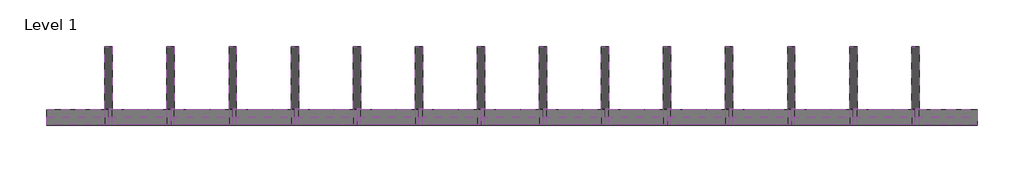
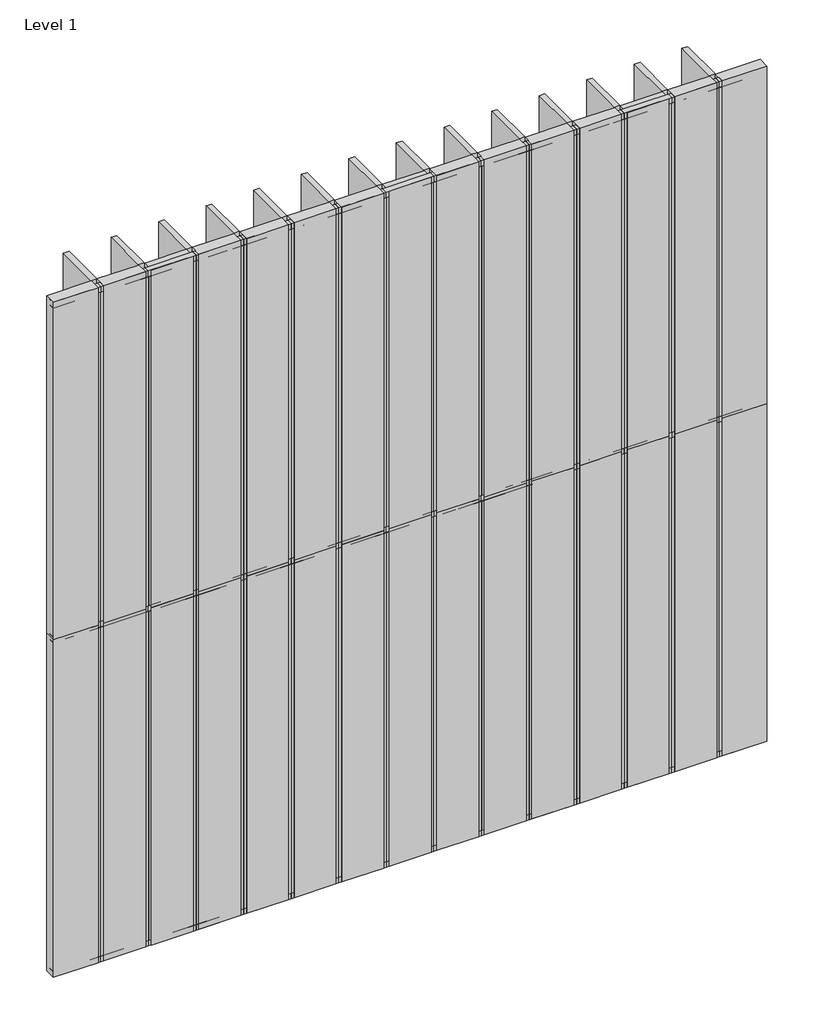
# One storey: 73 members, 60 plates.
"""IFC4 building model written with IfcOpenShell, lengths in millimetres."""

from ifc_helpers import new_model, si_unit, origin, place, context, project, spatial, transform, mapped, element, save
from components import rectangular_mullion_e1254653, rectangular_mullion_05cc9e47, rectangular_mullion_4a4034a1, rectangular_mullion_3c6e38bc, empty_system_panel_empty_6b42ee64, empty_system_panel_empty_c65c1b0f, empty_system_panel_empty_361e841d

model = new_model("IFC4")

# Units and contexts
model_context = context("Model", 3, world=origin())
ifc_project = project(units=[si_unit("LENGTHUNIT", "METRE", prefix="MILLI")], contexts=[model_context])

# Site, building, storey
site = spatial("IfcSite", under=ifc_project)
building = spatial("IfcBuilding", under=site)
storey = spatial("IfcBuildingStorey", under=building, Name="Level 1", Elevation=0.0)

# Members
placement = place(None, origin())
rectangular_mullion_shape = rectangular_mullion_e1254653(model_context)
element("IfcMember", 1, ObjectType="Rectangular Mullion : RSen_21_CWM_blade - cubic 400 - 0°_gen_duco projects", at=placement, inside=storey, context=model_context, shape_type="MappedRepresentation", body=[
    mapped(rectangular_mullion_shape, transform((5600.0, 3000.0, 0.0), x_axis=(-1.0, 0.0, 0.0), y_axis=(0.0, 1.0, 0.0), z_axis=(0.0, 0.0, -1.0))),
])
element("IfcMember", 2, ObjectType="Rectangular Mullion : RSen_21_CWM_blade - cubic 400 - 0°_gen_duco projects", at=placement, inside=storey, context=model_context, shape_type="MappedRepresentation", body=[
    mapped(rectangular_mullion_shape, transform((5200.0, 3000.0, 0.0), x_axis=(-1.0, 0.0, 0.0), y_axis=(0.0, 1.0, 0.0), z_axis=(0.0, 0.0, -1.0))),
])
element("IfcMember", 3, ObjectType="Rectangular Mullion : RSen_21_CWM_blade - cubic 400 - 0°_gen_duco projects", at=placement, inside=storey, context=model_context, shape_type="MappedRepresentation", body=[
    mapped(rectangular_mullion_shape, transform((4800.0, 3000.0, 0.0), x_axis=(-1.0, 0.0, 0.0), y_axis=(0.0, 1.0, 0.0), z_axis=(0.0, 0.0, -1.0))),
])
element("IfcMember", 4, ObjectType="Rectangular Mullion : RSen_21_CWM_blade - cubic 400 - 0°_gen_duco projects", at=placement, inside=storey, context=model_context, shape_type="MappedRepresentation", body=[
    mapped(rectangular_mullion_shape, transform((4400.0, 3000.0, 0.0), x_axis=(-1.0, 0.0, 0.0), y_axis=(0.0, 1.0, 0.0), z_axis=(0.0, 0.0, -1.0))),
])
element("IfcMember", 5, ObjectType="Rectangular Mullion : RSen_21_CWM_blade - cubic 400 - 0°_gen_duco projects", at=placement, inside=storey, context=model_context, shape_type="MappedRepresentation", body=[
    mapped(rectangular_mullion_shape, transform((4000.0, 3000.0, 0.0), x_axis=(-1.0, 0.0, 0.0), y_axis=(0.0, 1.0, 0.0), z_axis=(0.0, 0.0, -1.0))),
])
element("IfcMember", 6, ObjectType="Rectangular Mullion : RSen_21_CWM_blade - cubic 400 - 0°_gen_duco projects", at=placement, inside=storey, context=model_context, shape_type="MappedRepresentation", body=[
    mapped(rectangular_mullion_shape, transform((3600.0, 3000.0, 0.0), x_axis=(-1.0, 0.0, 0.0), y_axis=(0.0, 1.0, 0.0), z_axis=(0.0, 0.0, -1.0))),
])
element("IfcMember", 7, ObjectType="Rectangular Mullion : RSen_21_CWM_blade - cubic 400 - 0°_gen_duco projects", at=placement, inside=storey, context=model_context, shape_type="MappedRepresentation", body=[
    mapped(rectangular_mullion_shape, transform((3200.0, 3000.0, 0.0), x_axis=(-1.0, 0.0, 0.0), y_axis=(0.0, 1.0, 0.0), z_axis=(0.0, 0.0, -1.0))),
])
element("IfcMember", 8, ObjectType="Rectangular Mullion : RSen_21_CWM_blade - cubic 400 - 0°_gen_duco projects", at=placement, inside=storey, context=model_context, shape_type="MappedRepresentation", body=[
    mapped(rectangular_mullion_shape, transform((2800.0, 3000.0, 0.0), x_axis=(-1.0, 0.0, 0.0), y_axis=(0.0, 1.0, 0.0), z_axis=(0.0, 0.0, -1.0))),
])
element("IfcMember", 9, ObjectType="Rectangular Mullion : RSen_21_CWM_blade - cubic 400 - 0°_gen_duco projects", at=placement, inside=storey, context=model_context, shape_type="MappedRepresentation", body=[
    mapped(rectangular_mullion_shape, transform((2400.0, 3000.0, 0.0), x_axis=(-1.0, 0.0, 0.0), y_axis=(0.0, 1.0, 0.0), z_axis=(0.0, 0.0, -1.0))),
])
element("IfcMember", 10, ObjectType="Rectangular Mullion : RSen_21_CWM_blade - cubic 400 - 0°_gen_duco projects", at=placement, inside=storey, context=model_context, shape_type="MappedRepresentation", body=[
    mapped(rectangular_mullion_shape, transform((2000.0, 3000.0, 0.0), x_axis=(-1.0, 0.0, 0.0), y_axis=(0.0, 1.0, 0.0), z_axis=(0.0, 0.0, -1.0))),
])
element("IfcMember", 11, ObjectType="Rectangular Mullion : RSen_21_CWM_blade - cubic 400 - 0°_gen_duco projects", at=placement, inside=storey, context=model_context, shape_type="MappedRepresentation", body=[
    mapped(rectangular_mullion_shape, transform((1600.0, 3000.0, 0.0), x_axis=(-1.0, 0.0, 0.0), y_axis=(0.0, 1.0, 0.0), z_axis=(0.0, 0.0, -1.0))),
])
element("IfcMember", 12, ObjectType="Rectangular Mullion : RSen_21_CWM_blade - cubic 400 - 0°_gen_duco projects", at=placement, inside=storey, context=model_context, shape_type="MappedRepresentation", body=[
    mapped(rectangular_mullion_shape, transform((1200.0, 3000.0, 0.0), x_axis=(-1.0, 0.0, 0.0), y_axis=(0.0, 1.0, 0.0), z_axis=(0.0, 0.0, -1.0))),
])
element("IfcMember", 13, ObjectType="Rectangular Mullion : RSen_21_CWM_blade - cubic 400 - 0°_gen_duco projects", at=placement, inside=storey, context=model_context, shape_type="MappedRepresentation", body=[
    mapped(rectangular_mullion_shape, transform((800.0, 3000.0, 0.0), x_axis=(-1.0, 0.0, 0.0), y_axis=(0.0, 1.0, 0.0), z_axis=(0.0, 0.0, -1.0))),
])
element("IfcMember", 14, ObjectType="Rectangular Mullion : RSen_21_CWM_blade - cubic 400 - 0°_gen_duco projects", at=placement, inside=storey, context=model_context, shape_type="MappedRepresentation", body=[
    mapped(rectangular_mullion_shape, transform((400.0, 3000.0, 0.0), x_axis=(-1.0, 0.0, 0.0), y_axis=(0.0, 1.0, 0.0), z_axis=(0.0, 0.0, -1.0))),
])
element("IfcMember", 15, ObjectType="Rectangular Mullion : RSen_21_CWM_blade - cubic 400 - 0°_gen_duco projects", at=placement, inside=storey, context=model_context, shape_type="MappedRepresentation", body=[
    mapped(rectangular_mullion_shape, transform((5600.0, 3000.0, 3000.0), x_axis=(-1.0, 0.0, 0.0), y_axis=(0.0, 1.0, 0.0), z_axis=(0.0, 0.0, -1.0))),
])
element("IfcMember", 16, ObjectType="Rectangular Mullion : RSen_21_CWM_blade - cubic 400 - 0°_gen_duco projects", at=placement, inside=storey, context=model_context, shape_type="MappedRepresentation", body=[
    mapped(rectangular_mullion_shape, transform((5200.0, 3000.0, 3000.0), x_axis=(-1.0, 0.0, 0.0), y_axis=(0.0, 1.0, 0.0), z_axis=(0.0, 0.0, -1.0))),
])
element("IfcMember", 17, ObjectType="Rectangular Mullion : RSen_21_CWM_blade - cubic 400 - 0°_gen_duco projects", at=placement, inside=storey, context=model_context, shape_type="MappedRepresentation", body=[
    mapped(rectangular_mullion_shape, transform((4800.0, 3000.0, 3000.0), x_axis=(-1.0, 0.0, 0.0), y_axis=(0.0, 1.0, 0.0), z_axis=(0.0, 0.0, -1.0))),
])
element("IfcMember", 18, ObjectType="Rectangular Mullion : RSen_21_CWM_blade - cubic 400 - 0°_gen_duco projects", at=placement, inside=storey, context=model_context, shape_type="MappedRepresentation", body=[
    mapped(rectangular_mullion_shape, transform((4400.0, 3000.0, 3000.0), x_axis=(-1.0, 0.0, 0.0), y_axis=(0.0, 1.0, 0.0), z_axis=(0.0, 0.0, -1.0))),
])
element("IfcMember", 19, ObjectType="Rectangular Mullion : RSen_21_CWM_blade - cubic 400 - 0°_gen_duco projects", at=placement, inside=storey, context=model_context, shape_type="MappedRepresentation", body=[
    mapped(rectangular_mullion_shape, transform((4000.0, 3000.0, 3000.0), x_axis=(-1.0, 0.0, 0.0), y_axis=(0.0, 1.0, 0.0), z_axis=(0.0, 0.0, -1.0))),
])
element("IfcMember", 20, ObjectType="Rectangular Mullion : RSen_21_CWM_blade - cubic 400 - 0°_gen_duco projects", at=placement, inside=storey, context=model_context, shape_type="MappedRepresentation", body=[
    mapped(rectangular_mullion_shape, transform((3600.0, 3000.0, 3000.0), x_axis=(-1.0, 0.0, 0.0), y_axis=(0.0, 1.0, 0.0), z_axis=(0.0, 0.0, -1.0))),
])
element("IfcMember", 21, ObjectType="Rectangular Mullion : RSen_21_CWM_blade - cubic 400 - 0°_gen_duco projects", at=placement, inside=storey, context=model_context, shape_type="MappedRepresentation", body=[
    mapped(rectangular_mullion_shape, transform((3200.0, 3000.0, 3000.0), x_axis=(-1.0, 0.0, 0.0), y_axis=(0.0, 1.0, 0.0), z_axis=(0.0, 0.0, -1.0))),
])
element("IfcMember", 22, ObjectType="Rectangular Mullion : RSen_21_CWM_blade - cubic 400 - 0°_gen_duco projects", at=placement, inside=storey, context=model_context, shape_type="MappedRepresentation", body=[
    mapped(rectangular_mullion_shape, transform((2800.0, 3000.0, 3000.0), x_axis=(-1.0, 0.0, 0.0), y_axis=(0.0, 1.0, 0.0), z_axis=(0.0, 0.0, -1.0))),
])
element("IfcMember", 23, ObjectType="Rectangular Mullion : RSen_21_CWM_blade - cubic 400 - 0°_gen_duco projects", at=placement, inside=storey, context=model_context, shape_type="MappedRepresentation", body=[
    mapped(rectangular_mullion_shape, transform((2400.0, 3000.0, 3000.0), x_axis=(-1.0, 0.0, 0.0), y_axis=(0.0, 1.0, 0.0), z_axis=(0.0, 0.0, -1.0))),
])
element("IfcMember", 24, ObjectType="Rectangular Mullion : RSen_21_CWM_blade - cubic 400 - 0°_gen_duco projects", at=placement, inside=storey, context=model_context, shape_type="MappedRepresentation", body=[
    mapped(rectangular_mullion_shape, transform((2000.0, 3000.0, 3000.0), x_axis=(-1.0, 0.0, 0.0), y_axis=(0.0, 1.0, 0.0), z_axis=(0.0, 0.0, -1.0))),
])
element("IfcMember", 25, ObjectType="Rectangular Mullion : RSen_21_CWM_blade - cubic 400 - 0°_gen_duco projects", at=placement, inside=storey, context=model_context, shape_type="MappedRepresentation", body=[
    mapped(rectangular_mullion_shape, transform((1600.0, 3000.0, 3000.0), x_axis=(-1.0, 0.0, 0.0), y_axis=(0.0, 1.0, 0.0), z_axis=(0.0, 0.0, -1.0))),
])
element("IfcMember", 26, ObjectType="Rectangular Mullion : RSen_21_CWM_blade - cubic 400 - 0°_gen_duco projects", at=placement, inside=storey, context=model_context, shape_type="MappedRepresentation", body=[
    mapped(rectangular_mullion_shape, transform((1200.0, 3000.0, 3000.0), x_axis=(-1.0, 0.0, 0.0), y_axis=(0.0, 1.0, 0.0), z_axis=(0.0, 0.0, -1.0))),
])
element("IfcMember", 27, ObjectType="Rectangular Mullion : RSen_21_CWM_blade - cubic 400 - 0°_gen_duco projects", at=placement, inside=storey, context=model_context, shape_type="MappedRepresentation", body=[
    mapped(rectangular_mullion_shape, transform((800.0, 3000.0, 3000.0), x_axis=(-1.0, 0.0, 0.0), y_axis=(0.0, 1.0, 0.0), z_axis=(0.0, 0.0, -1.0))),
])
element("IfcMember", 28, ObjectType="Rectangular Mullion : RSen_21_CWM_blade - cubic 400 - 0°_gen_duco projects", at=placement, inside=storey, context=model_context, shape_type="MappedRepresentation", body=[
    mapped(rectangular_mullion_shape, transform((400.0, 3000.0, 3000.0), x_axis=(-1.0, 0.0, 0.0), y_axis=(0.0, 1.0, 0.0), z_axis=(0.0, 0.0, -1.0))),
])
rectangular_mullion_2_shape = rectangular_mullion_05cc9e47(model_context)
element("IfcMember", 29, ObjectType="Rectangular Mullion : RSen_21_CWM_support profile 50x50 - left_gen_duco projects", at=placement, inside=storey, context=model_context, shape_type="MappedRepresentation", body=[
    mapped(rectangular_mullion_2_shape, transform((0.0, 3000.0, 6000.0), x_axis=(0.0, 0.0, 1.0), y_axis=(0.0, 1.0, 0.0), z_axis=(-1.0, 0.0, 0.0))),
])
rectangular_mullion_3_shape = rectangular_mullion_4a4034a1(model_context)
element("IfcMember", 30, ObjectType="Rectangular Mullion : RSen_21_CWM_support profile 50x50 - right_gen_duco projects", at=placement, inside=storey, context=model_context, shape_type="MappedRepresentation", body=[
    mapped(rectangular_mullion_3_shape, transform((6000.0, 3000.0, 0.0), x_axis=(0.0, 0.0, -1.0), y_axis=(0.0, 1.0, 0.0), z_axis=(1.0, 0.0, 0.0))),
])
element("IfcMember", 31, ObjectType="Rectangular Mullion : RSen_21_CWM_support profile 50x50 - left_gen_duco projects", at=placement, inside=storey, context=model_context, shape_type="MappedRepresentation", body=[
    mapped(rectangular_mullion_2_shape, transform((5600.0, 3000.0, 6000.0), x_axis=(0.0, 0.0, 1.0), y_axis=(0.0, 1.0, 0.0), z_axis=(-1.0, 0.0, 0.0))),
])
element("IfcMember", 32, ObjectType="Rectangular Mullion : RSen_21_CWM_support profile 50x50 - left_gen_duco projects", at=placement, inside=storey, context=model_context, shape_type="MappedRepresentation", body=[
    mapped(rectangular_mullion_2_shape, transform((5200.0, 3000.0, 6000.0), x_axis=(0.0, 0.0, 1.0), y_axis=(0.0, 1.0, 0.0), z_axis=(-1.0, 0.0, 0.0))),
])
element("IfcMember", 33, ObjectType="Rectangular Mullion : RSen_21_CWM_support profile 50x50 - left_gen_duco projects", at=placement, inside=storey, context=model_context, shape_type="MappedRepresentation", body=[
    mapped(rectangular_mullion_2_shape, transform((4800.0, 3000.0, 6000.0), x_axis=(0.0, 0.0, 1.0), y_axis=(0.0, 1.0, 0.0), z_axis=(-1.0, 0.0, 0.0))),
])
element("IfcMember", 34, ObjectType="Rectangular Mullion : RSen_21_CWM_support profile 50x50 - left_gen_duco projects", at=placement, inside=storey, context=model_context, shape_type="MappedRepresentation", body=[
    mapped(rectangular_mullion_2_shape, transform((4400.0, 3000.0, 6000.0), x_axis=(0.0, 0.0, 1.0), y_axis=(0.0, 1.0, 0.0), z_axis=(-1.0, 0.0, 0.0))),
])
element("IfcMember", 35, ObjectType="Rectangular Mullion : RSen_21_CWM_support profile 50x50 - left_gen_duco projects", at=placement, inside=storey, context=model_context, shape_type="MappedRepresentation", body=[
    mapped(rectangular_mullion_2_shape, transform((4000.0, 3000.0, 6000.0), x_axis=(0.0, 0.0, 1.0), y_axis=(0.0, 1.0, 0.0), z_axis=(-1.0, 0.0, 0.0))),
])
element("IfcMember", 36, ObjectType="Rectangular Mullion : RSen_21_CWM_support profile 50x50 - left_gen_duco projects", at=placement, inside=storey, context=model_context, shape_type="MappedRepresentation", body=[
    mapped(rectangular_mullion_2_shape, transform((3600.0, 3000.0, 6000.0), x_axis=(0.0, 0.0, 1.0), y_axis=(0.0, 1.0, 0.0), z_axis=(-1.0, 0.0, 0.0))),
])
element("IfcMember", 37, ObjectType="Rectangular Mullion : RSen_21_CWM_support profile 50x50 - left_gen_duco projects", at=placement, inside=storey, context=model_context, shape_type="MappedRepresentation", body=[
    mapped(rectangular_mullion_2_shape, transform((3200.0, 3000.0, 6000.0), x_axis=(0.0, 0.0, 1.0), y_axis=(0.0, 1.0, 0.0), z_axis=(-1.0, 0.0, 0.0))),
])
element("IfcMember", 38, ObjectType="Rectangular Mullion : RSen_21_CWM_support profile 50x50 - left_gen_duco projects", at=placement, inside=storey, context=model_context, shape_type="MappedRepresentation", body=[
    mapped(rectangular_mullion_2_shape, transform((2800.0, 3000.0, 6000.0), x_axis=(0.0, 0.0, 1.0), y_axis=(0.0, 1.0, 0.0), z_axis=(-1.0, 0.0, 0.0))),
])
element("IfcMember", 39, ObjectType="Rectangular Mullion : RSen_21_CWM_support profile 50x50 - left_gen_duco projects", at=placement, inside=storey, context=model_context, shape_type="MappedRepresentation", body=[
    mapped(rectangular_mullion_2_shape, transform((2400.0, 3000.0, 6000.0), x_axis=(0.0, 0.0, 1.0), y_axis=(0.0, 1.0, 0.0), z_axis=(-1.0, 0.0, 0.0))),
])
element("IfcMember", 40, ObjectType="Rectangular Mullion : RSen_21_CWM_support profile 50x50 - left_gen_duco projects", at=placement, inside=storey, context=model_context, shape_type="MappedRepresentation", body=[
    mapped(rectangular_mullion_2_shape, transform((2000.0, 3000.0, 6000.0), x_axis=(0.0, 0.0, 1.0), y_axis=(0.0, 1.0, 0.0), z_axis=(-1.0, 0.0, 0.0))),
])
element("IfcMember", 41, ObjectType="Rectangular Mullion : RSen_21_CWM_support profile 50x50 - left_gen_duco projects", at=placement, inside=storey, context=model_context, shape_type="MappedRepresentation", body=[
    mapped(rectangular_mullion_2_shape, transform((1600.0, 3000.0, 6000.0), x_axis=(0.0, 0.0, 1.0), y_axis=(0.0, 1.0, 0.0), z_axis=(-1.0, 0.0, 0.0))),
])
element("IfcMember", 42, ObjectType="Rectangular Mullion : RSen_21_CWM_support profile 50x50 - left_gen_duco projects", at=placement, inside=storey, context=model_context, shape_type="MappedRepresentation", body=[
    mapped(rectangular_mullion_2_shape, transform((1200.0, 3000.0, 6000.0), x_axis=(0.0, 0.0, 1.0), y_axis=(0.0, 1.0, 0.0), z_axis=(-1.0, 0.0, 0.0))),
])
element("IfcMember", 43, ObjectType="Rectangular Mullion : RSen_21_CWM_support profile 50x50 - left_gen_duco projects", at=placement, inside=storey, context=model_context, shape_type="MappedRepresentation", body=[
    mapped(rectangular_mullion_2_shape, transform((800.0, 3000.0, 6000.0), x_axis=(0.0, 0.0, 1.0), y_axis=(0.0, 1.0, 0.0), z_axis=(-1.0, 0.0, 0.0))),
])
element("IfcMember", 44, ObjectType="Rectangular Mullion : RSen_21_CWM_support profile 50x50 - left_gen_duco projects", at=placement, inside=storey, context=model_context, shape_type="MappedRepresentation", body=[
    mapped(rectangular_mullion_2_shape, transform((400.0, 3000.0, 6000.0), x_axis=(0.0, 0.0, 1.0), y_axis=(0.0, 1.0, 0.0), z_axis=(-1.0, 0.0, 0.0))),
])
element("IfcMember", 45, ObjectType="Rectangular Mullion : RSen_21_CWM_support profile 50x50 - right_gen_duco projects", at=placement, inside=storey, context=model_context, shape_type="MappedRepresentation", body=[
    mapped(rectangular_mullion_3_shape, transform((5600.0, 3000.0, 0.0), x_axis=(0.0, 0.0, -1.0), y_axis=(0.0, 1.0, 0.0), z_axis=(1.0, 0.0, 0.0))),
])
element("IfcMember", 46, ObjectType="Rectangular Mullion : RSen_21_CWM_support profile 50x50 - right_gen_duco projects", at=placement, inside=storey, context=model_context, shape_type="MappedRepresentation", body=[
    mapped(rectangular_mullion_3_shape, transform((5200.0, 3000.0, 0.0), x_axis=(0.0, 0.0, -1.0), y_axis=(0.0, 1.0, 0.0), z_axis=(1.0, 0.0, 0.0))),
])
element("IfcMember", 47, ObjectType="Rectangular Mullion : RSen_21_CWM_support profile 50x50 - right_gen_duco projects", at=placement, inside=storey, context=model_context, shape_type="MappedRepresentation", body=[
    mapped(rectangular_mullion_3_shape, transform((4800.0, 3000.0, 0.0), x_axis=(0.0, 0.0, -1.0), y_axis=(0.0, 1.0, 0.0), z_axis=(1.0, 0.0, 0.0))),
])
element("IfcMember", 48, ObjectType="Rectangular Mullion : RSen_21_CWM_support profile 50x50 - right_gen_duco projects", at=placement, inside=storey, context=model_context, shape_type="MappedRepresentation", body=[
    mapped(rectangular_mullion_3_shape, transform((4400.0, 3000.0, 0.0), x_axis=(0.0, 0.0, -1.0), y_axis=(0.0, 1.0, 0.0), z_axis=(1.0, 0.0, 0.0))),
])
element("IfcMember", 49, ObjectType="Rectangular Mullion : RSen_21_CWM_support profile 50x50 - right_gen_duco projects", at=placement, inside=storey, context=model_context, shape_type="MappedRepresentation", body=[
    mapped(rectangular_mullion_3_shape, transform((4000.0, 3000.0, 0.0), x_axis=(0.0, 0.0, -1.0), y_axis=(0.0, 1.0, 0.0), z_axis=(1.0, 0.0, 0.0))),
])
element("IfcMember", 50, ObjectType="Rectangular Mullion : RSen_21_CWM_support profile 50x50 - right_gen_duco projects", at=placement, inside=storey, context=model_context, shape_type="MappedRepresentation", body=[
    mapped(rectangular_mullion_3_shape, transform((3600.0, 3000.0, 0.0), x_axis=(0.0, 0.0, -1.0), y_axis=(0.0, 1.0, 0.0), z_axis=(1.0, 0.0, 0.0))),
])
element("IfcMember", 51, ObjectType="Rectangular Mullion : RSen_21_CWM_support profile 50x50 - right_gen_duco projects", at=placement, inside=storey, context=model_context, shape_type="MappedRepresentation", body=[
    mapped(rectangular_mullion_3_shape, transform((3200.0, 3000.0, 0.0), x_axis=(0.0, 0.0, -1.0), y_axis=(0.0, 1.0, 0.0), z_axis=(1.0, 0.0, 0.0))),
])
element("IfcMember", 52, ObjectType="Rectangular Mullion : RSen_21_CWM_support profile 50x50 - right_gen_duco projects", at=placement, inside=storey, context=model_context, shape_type="MappedRepresentation", body=[
    mapped(rectangular_mullion_3_shape, transform((2800.0, 3000.0, 0.0), x_axis=(0.0, 0.0, -1.0), y_axis=(0.0, 1.0, 0.0), z_axis=(1.0, 0.0, 0.0))),
])
element("IfcMember", 53, ObjectType="Rectangular Mullion : RSen_21_CWM_support profile 50x50 - right_gen_duco projects", at=placement, inside=storey, context=model_context, shape_type="MappedRepresentation", body=[
    mapped(rectangular_mullion_3_shape, transform((2400.0, 3000.0, 0.0), x_axis=(0.0, 0.0, -1.0), y_axis=(0.0, 1.0, 0.0), z_axis=(1.0, 0.0, 0.0))),
])
element("IfcMember", 54, ObjectType="Rectangular Mullion : RSen_21_CWM_support profile 50x50 - right_gen_duco projects", at=placement, inside=storey, context=model_context, shape_type="MappedRepresentation", body=[
    mapped(rectangular_mullion_3_shape, transform((2000.0, 3000.0, 0.0), x_axis=(0.0, 0.0, -1.0), y_axis=(0.0, 1.0, 0.0), z_axis=(1.0, 0.0, 0.0))),
])
element("IfcMember", 55, ObjectType="Rectangular Mullion : RSen_21_CWM_support profile 50x50 - right_gen_duco projects", at=placement, inside=storey, context=model_context, shape_type="MappedRepresentation", body=[
    mapped(rectangular_mullion_3_shape, transform((1600.0, 3000.0, 0.0), x_axis=(0.0, 0.0, -1.0), y_axis=(0.0, 1.0, 0.0), z_axis=(1.0, 0.0, 0.0))),
])
element("IfcMember", 56, ObjectType="Rectangular Mullion : RSen_21_CWM_support profile 50x50 - right_gen_duco projects", at=placement, inside=storey, context=model_context, shape_type="MappedRepresentation", body=[
    mapped(rectangular_mullion_3_shape, transform((1200.0, 3000.0, 0.0), x_axis=(0.0, 0.0, -1.0), y_axis=(0.0, 1.0, 0.0), z_axis=(1.0, 0.0, 0.0))),
])
element("IfcMember", 57, ObjectType="Rectangular Mullion : RSen_21_CWM_support profile 50x50 - right_gen_duco projects", at=placement, inside=storey, context=model_context, shape_type="MappedRepresentation", body=[
    mapped(rectangular_mullion_3_shape, transform((800.0, 3000.0, 0.0), x_axis=(0.0, 0.0, -1.0), y_axis=(0.0, 1.0, 0.0), z_axis=(1.0, 0.0, 0.0))),
])
element("IfcMember", 58, ObjectType="Rectangular Mullion : RSen_21_CWM_support profile 50x50 - right_gen_duco projects", at=placement, inside=storey, context=model_context, shape_type="MappedRepresentation", body=[
    mapped(rectangular_mullion_3_shape, transform((400.0, 3000.0, 0.0), x_axis=(0.0, 0.0, -1.0), y_axis=(0.0, 1.0, 0.0), z_axis=(1.0, 0.0, 0.0))),
])
rectangular_mullion_4_shape = rectangular_mullion_3c6e38bc(model_context)
element("IfcMember", 59, ObjectType="Rectangular Mullion : RSen_21_CWM_support profile 50x50_gen_duco projects", at=placement, inside=storey, context=model_context, shape_type="MappedRepresentation", body=[
    mapped(rectangular_mullion_4_shape, transform((5600.0, 3000.0, 3000.0), x_axis=(0.0, 0.0, 1.0), y_axis=(0.0, 1.0, 0.0), z_axis=(-1.0, 0.0, 0.0))),
])
element("IfcMember", 60, ObjectType="Rectangular Mullion : RSen_21_CWM_support profile 50x50_gen_duco projects", at=placement, inside=storey, context=model_context, shape_type="MappedRepresentation", body=[
    mapped(rectangular_mullion_4_shape, transform((5200.0, 3000.0, 3000.0), x_axis=(0.0, 0.0, 1.0), y_axis=(0.0, 1.0, 0.0), z_axis=(-1.0, 0.0, 0.0))),
])
element("IfcMember", 61, ObjectType="Rectangular Mullion : RSen_21_CWM_support profile 50x50_gen_duco projects", at=placement, inside=storey, context=model_context, shape_type="MappedRepresentation", body=[
    mapped(rectangular_mullion_4_shape, transform((4800.0, 3000.0, 3000.0), x_axis=(0.0, 0.0, 1.0), y_axis=(0.0, 1.0, 0.0), z_axis=(-1.0, 0.0, 0.0))),
])
element("IfcMember", 62, ObjectType="Rectangular Mullion : RSen_21_CWM_support profile 50x50_gen_duco projects", at=placement, inside=storey, context=model_context, shape_type="MappedRepresentation", body=[
    mapped(rectangular_mullion_4_shape, transform((4400.0, 3000.0, 3000.0), x_axis=(0.0, 0.0, 1.0), y_axis=(0.0, 1.0, 0.0), z_axis=(-1.0, 0.0, 0.0))),
])
element("IfcMember", 63, ObjectType="Rectangular Mullion : RSen_21_CWM_support profile 50x50_gen_duco projects", at=placement, inside=storey, context=model_context, shape_type="MappedRepresentation", body=[
    mapped(rectangular_mullion_4_shape, transform((4000.0, 3000.0, 3000.0), x_axis=(0.0, 0.0, 1.0), y_axis=(0.0, 1.0, 0.0), z_axis=(-1.0, 0.0, 0.0))),
])
element("IfcMember", 64, ObjectType="Rectangular Mullion : RSen_21_CWM_support profile 50x50_gen_duco projects", at=placement, inside=storey, context=model_context, shape_type="MappedRepresentation", body=[
    mapped(rectangular_mullion_4_shape, transform((3600.0, 3000.0, 3000.0), x_axis=(0.0, 0.0, 1.0), y_axis=(0.0, 1.0, 0.0), z_axis=(-1.0, 0.0, 0.0))),
])
element("IfcMember", 65, ObjectType="Rectangular Mullion : RSen_21_CWM_support profile 50x50_gen_duco projects", at=placement, inside=storey, context=model_context, shape_type="MappedRepresentation", body=[
    mapped(rectangular_mullion_4_shape, transform((3200.0, 3000.0, 3000.0), x_axis=(0.0, 0.0, 1.0), y_axis=(0.0, 1.0, 0.0), z_axis=(-1.0, 0.0, 0.0))),
])
element("IfcMember", 66, ObjectType="Rectangular Mullion : RSen_21_CWM_support profile 50x50_gen_duco projects", at=placement, inside=storey, context=model_context, shape_type="MappedRepresentation", body=[
    mapped(rectangular_mullion_4_shape, transform((2800.0, 3000.0, 3000.0), x_axis=(0.0, 0.0, 1.0), y_axis=(0.0, 1.0, 0.0), z_axis=(-1.0, 0.0, 0.0))),
])
element("IfcMember", 67, ObjectType="Rectangular Mullion : RSen_21_CWM_support profile 50x50_gen_duco projects", at=placement, inside=storey, context=model_context, shape_type="MappedRepresentation", body=[
    mapped(rectangular_mullion_4_shape, transform((2400.0, 3000.0, 3000.0), x_axis=(0.0, 0.0, 1.0), y_axis=(0.0, 1.0, 0.0), z_axis=(-1.0, 0.0, 0.0))),
])
element("IfcMember", 68, ObjectType="Rectangular Mullion : RSen_21_CWM_support profile 50x50_gen_duco projects", at=placement, inside=storey, context=model_context, shape_type="MappedRepresentation", body=[
    mapped(rectangular_mullion_4_shape, transform((2000.0, 3000.0, 3000.0), x_axis=(0.0, 0.0, 1.0), y_axis=(0.0, 1.0, 0.0), z_axis=(-1.0, 0.0, 0.0))),
])
element("IfcMember", 69, ObjectType="Rectangular Mullion : RSen_21_CWM_support profile 50x50_gen_duco projects", at=placement, inside=storey, context=model_context, shape_type="MappedRepresentation", body=[
    mapped(rectangular_mullion_4_shape, transform((1600.0, 3000.0, 3000.0), x_axis=(0.0, 0.0, 1.0), y_axis=(0.0, 1.0, 0.0), z_axis=(-1.0, 0.0, 0.0))),
])
element("IfcMember", 70, ObjectType="Rectangular Mullion : RSen_21_CWM_support profile 50x50_gen_duco projects", at=placement, inside=storey, context=model_context, shape_type="MappedRepresentation", body=[
    mapped(rectangular_mullion_4_shape, transform((1200.0, 3000.0, 3000.0), x_axis=(0.0, 0.0, 1.0), y_axis=(0.0, 1.0, 0.0), z_axis=(-1.0, 0.0, 0.0))),
])
element("IfcMember", 71, ObjectType="Rectangular Mullion : RSen_21_CWM_support profile 50x50_gen_duco projects", at=placement, inside=storey, context=model_context, shape_type="MappedRepresentation", body=[
    mapped(rectangular_mullion_4_shape, transform((800.0, 3000.0, 3000.0), x_axis=(0.0, 0.0, 1.0), y_axis=(0.0, 1.0, 0.0), z_axis=(-1.0, 0.0, 0.0))),
])
element("IfcMember", 72, ObjectType="Rectangular Mullion : RSen_21_CWM_support profile 50x50_gen_duco projects", at=placement, inside=storey, context=model_context, shape_type="MappedRepresentation", body=[
    mapped(rectangular_mullion_4_shape, transform((400.0, 3000.0, 3000.0), x_axis=(0.0, 0.0, 1.0), y_axis=(0.0, 1.0, 0.0), z_axis=(-1.0, 0.0, 0.0))),
])
element("IfcMember", 73, ObjectType="Rectangular Mullion : RSen_21_CWM_support profile 50x50_gen_duco projects", at=placement, inside=storey, context=model_context, shape_type="MappedRepresentation", body=[
    mapped(rectangular_mullion_4_shape, transform((0.0, 3000.0, 3000.0), x_axis=(0.0, 0.0, 1.0), y_axis=(0.0, 1.0, 0.0), z_axis=(-1.0, 0.0, 0.0))),
])

# Plates
empty_system_panel_empty_shape = empty_system_panel_empty_6b42ee64(model_context)
element("IfcPlate", 74, ObjectType="Empty System Panel : Empty", at=placement, inside=storey, context=model_context, shape_type="MappedRepresentation", body=[
    mapped(empty_system_panel_empty_shape, transform((5812.0, 3000.0, 0.0), x_axis=(-1.0, 0.0, 0.0), y_axis=(0.0, -1.0, 0.0), z_axis=(0.0, 0.0, 1.0))),
])
element("IfcPlate", 75, ObjectType="Empty System Panel : Empty", at=placement, inside=storey, context=model_context, shape_type="MappedRepresentation", body=[
    mapped(empty_system_panel_empty_shape, transform((188.0, 3000.0, 0.0), x_axis=(-1.0, 0.0, 0.0), y_axis=(0.0, -1.0, 0.0), z_axis=(0.0, 0.0, 1.0))),
])
element("IfcPlate", 76, ObjectType="Empty System Panel : Empty", at=placement, inside=storey, context=model_context, shape_type="MappedRepresentation", body=[
    mapped(empty_system_panel_empty_shape, transform((5812.0, 3000.0, 3000.0), x_axis=(-1.0, 0.0, 0.0), y_axis=(0.0, -1.0, 0.0), z_axis=(0.0, 0.0, 1.0))),
])
element("IfcPlate", 77, ObjectType="Empty System Panel : Empty", at=placement, inside=storey, context=model_context, shape_type="MappedRepresentation", body=[
    mapped(empty_system_panel_empty_shape, transform((188.0, 3000.0, 3000.0), x_axis=(-1.0, 0.0, 0.0), y_axis=(0.0, -1.0, 0.0), z_axis=(0.0, 0.0, 1.0))),
])
empty_system_panel_empty_2_shape = empty_system_panel_empty_c65c1b0f(model_context)
element("IfcPlate", 78, ObjectType="Empty System Panel : Empty", at=placement, inside=storey, context=model_context, shape_type="MappedRepresentation", body=[
    mapped(empty_system_panel_empty_2_shape, transform((5400.0, 3000.0, 0.0), x_axis=(-1.0, 0.0, 0.0), y_axis=(0.0, -1.0, 0.0), z_axis=(0.0, 0.0, 1.0))),
])
element("IfcPlate", 79, ObjectType="Empty System Panel : Empty", at=placement, inside=storey, context=model_context, shape_type="MappedRepresentation", body=[
    mapped(empty_system_panel_empty_2_shape, transform((5000.0, 3000.0, 0.0), x_axis=(-1.0, 0.0, 0.0), y_axis=(0.0, -1.0, 0.0), z_axis=(0.0, 0.0, 1.0))),
])
element("IfcPlate", 80, ObjectType="Empty System Panel : Empty", at=placement, inside=storey, context=model_context, shape_type="MappedRepresentation", body=[
    mapped(empty_system_panel_empty_2_shape, transform((4600.0, 3000.0, 0.0), x_axis=(-1.0, 0.0, 0.0), y_axis=(0.0, -1.0, 0.0), z_axis=(0.0, 0.0, 1.0))),
])
element("IfcPlate", 81, ObjectType="Empty System Panel : Empty", at=placement, inside=storey, context=model_context, shape_type="MappedRepresentation", body=[
    mapped(empty_system_panel_empty_2_shape, transform((4200.0, 3000.0, 0.0), x_axis=(-1.0, 0.0, 0.0), y_axis=(0.0, -1.0, 0.0), z_axis=(0.0, 0.0, 1.0))),
])
element("IfcPlate", 82, ObjectType="Empty System Panel : Empty", at=placement, inside=storey, context=model_context, shape_type="MappedRepresentation", body=[
    mapped(empty_system_panel_empty_2_shape, transform((3800.0, 3000.0, 0.0), x_axis=(-1.0, 0.0, 0.0), y_axis=(0.0, -1.0, 0.0), z_axis=(0.0, 0.0, 1.0))),
])
element("IfcPlate", 83, ObjectType="Empty System Panel : Empty", at=placement, inside=storey, context=model_context, shape_type="MappedRepresentation", body=[
    mapped(empty_system_panel_empty_2_shape, transform((3400.0, 3000.0, 0.0), x_axis=(-1.0, 0.0, 0.0), y_axis=(0.0, -1.0, 0.0), z_axis=(0.0, 0.0, 1.0))),
])
element("IfcPlate", 84, ObjectType="Empty System Panel : Empty", at=placement, inside=storey, context=model_context, shape_type="MappedRepresentation", body=[
    mapped(empty_system_panel_empty_2_shape, transform((3000.0, 3000.0, 0.0), x_axis=(-1.0, 0.0, 0.0), y_axis=(0.0, -1.0, 0.0), z_axis=(0.0, 0.0, 1.0))),
])
element("IfcPlate", 85, ObjectType="Empty System Panel : Empty", at=placement, inside=storey, context=model_context, shape_type="MappedRepresentation", body=[
    mapped(empty_system_panel_empty_2_shape, transform((2600.0, 3000.0, 0.0), x_axis=(-1.0, 0.0, 0.0), y_axis=(0.0, -1.0, 0.0), z_axis=(0.0, 0.0, 1.0))),
])
element("IfcPlate", 86, ObjectType="Empty System Panel : Empty", at=placement, inside=storey, context=model_context, shape_type="MappedRepresentation", body=[
    mapped(empty_system_panel_empty_2_shape, transform((2200.0, 3000.0, 0.0), x_axis=(-1.0, 0.0, 0.0), y_axis=(0.0, -1.0, 0.0), z_axis=(0.0, 0.0, 1.0))),
])
element("IfcPlate", 87, ObjectType="Empty System Panel : Empty", at=placement, inside=storey, context=model_context, shape_type="MappedRepresentation", body=[
    mapped(empty_system_panel_empty_2_shape, transform((1800.0, 3000.0, 0.0), x_axis=(-1.0, 0.0, 0.0), y_axis=(0.0, -1.0, 0.0), z_axis=(0.0, 0.0, 1.0))),
])
element("IfcPlate", 88, ObjectType="Empty System Panel : Empty", at=placement, inside=storey, context=model_context, shape_type="MappedRepresentation", body=[
    mapped(empty_system_panel_empty_2_shape, transform((1400.0, 3000.0, 0.0), x_axis=(-1.0, 0.0, 0.0), y_axis=(0.0, -1.0, 0.0), z_axis=(0.0, 0.0, 1.0))),
])
element("IfcPlate", 89, ObjectType="Empty System Panel : Empty", at=placement, inside=storey, context=model_context, shape_type="MappedRepresentation", body=[
    mapped(empty_system_panel_empty_2_shape, transform((1000.0, 3000.0, 0.0), x_axis=(-1.0, 0.0, 0.0), y_axis=(0.0, -1.0, 0.0), z_axis=(0.0, 0.0, 1.0))),
])
element("IfcPlate", 90, ObjectType="Empty System Panel : Empty", at=placement, inside=storey, context=model_context, shape_type="MappedRepresentation", body=[
    mapped(empty_system_panel_empty_2_shape, transform((600.0, 3000.0, 0.0), x_axis=(-1.0, 0.0, 0.0), y_axis=(0.0, -1.0, 0.0), z_axis=(0.0, 0.0, 1.0))),
])
element("IfcPlate", 91, ObjectType="Empty System Panel : Empty", at=placement, inside=storey, context=model_context, shape_type="MappedRepresentation", body=[
    mapped(empty_system_panel_empty_2_shape, transform((5400.0, 3000.0, 3000.0), x_axis=(-1.0, 0.0, 0.0), y_axis=(0.0, -1.0, 0.0), z_axis=(0.0, 0.0, 1.0))),
])
element("IfcPlate", 92, ObjectType="Empty System Panel : Empty", at=placement, inside=storey, context=model_context, shape_type="MappedRepresentation", body=[
    mapped(empty_system_panel_empty_2_shape, transform((5000.0, 3000.0, 3000.0), x_axis=(-1.0, 0.0, 0.0), y_axis=(0.0, -1.0, 0.0), z_axis=(0.0, 0.0, 1.0))),
])
element("IfcPlate", 93, ObjectType="Empty System Panel : Empty", at=placement, inside=storey, context=model_context, shape_type="MappedRepresentation", body=[
    mapped(empty_system_panel_empty_2_shape, transform((4600.0, 3000.0, 3000.0), x_axis=(-1.0, 0.0, 0.0), y_axis=(0.0, -1.0, 0.0), z_axis=(0.0, 0.0, 1.0))),
])
element("IfcPlate", 94, ObjectType="Empty System Panel : Empty", at=placement, inside=storey, context=model_context, shape_type="MappedRepresentation", body=[
    mapped(empty_system_panel_empty_2_shape, transform((4200.0, 3000.0, 3000.0), x_axis=(-1.0, 0.0, 0.0), y_axis=(0.0, -1.0, 0.0), z_axis=(0.0, 0.0, 1.0))),
])
element("IfcPlate", 95, ObjectType="Empty System Panel : Empty", at=placement, inside=storey, context=model_context, shape_type="MappedRepresentation", body=[
    mapped(empty_system_panel_empty_2_shape, transform((3800.0, 3000.0, 3000.0), x_axis=(-1.0, 0.0, 0.0), y_axis=(0.0, -1.0, 0.0), z_axis=(0.0, 0.0, 1.0))),
])
element("IfcPlate", 96, ObjectType="Empty System Panel : Empty", at=placement, inside=storey, context=model_context, shape_type="MappedRepresentation", body=[
    mapped(empty_system_panel_empty_2_shape, transform((3400.0, 3000.0, 3000.0), x_axis=(-1.0, 0.0, 0.0), y_axis=(0.0, -1.0, 0.0), z_axis=(0.0, 0.0, 1.0))),
])
element("IfcPlate", 97, ObjectType="Empty System Panel : Empty", at=placement, inside=storey, context=model_context, shape_type="MappedRepresentation", body=[
    mapped(empty_system_panel_empty_2_shape, transform((3000.0, 3000.0, 3000.0), x_axis=(-1.0, 0.0, 0.0), y_axis=(0.0, -1.0, 0.0), z_axis=(0.0, 0.0, 1.0))),
])
element("IfcPlate", 98, ObjectType="Empty System Panel : Empty", at=placement, inside=storey, context=model_context, shape_type="MappedRepresentation", body=[
    mapped(empty_system_panel_empty_2_shape, transform((2600.0, 3000.0, 3000.0), x_axis=(-1.0, 0.0, 0.0), y_axis=(0.0, -1.0, 0.0), z_axis=(0.0, 0.0, 1.0))),
])
element("IfcPlate", 99, ObjectType="Empty System Panel : Empty", at=placement, inside=storey, context=model_context, shape_type="MappedRepresentation", body=[
    mapped(empty_system_panel_empty_2_shape, transform((2200.0, 3000.0, 3000.0), x_axis=(-1.0, 0.0, 0.0), y_axis=(0.0, -1.0, 0.0), z_axis=(0.0, 0.0, 1.0))),
])
element("IfcPlate", 100, ObjectType="Empty System Panel : Empty", at=placement, inside=storey, context=model_context, shape_type="MappedRepresentation", body=[
    mapped(empty_system_panel_empty_2_shape, transform((1800.0, 3000.0, 3000.0), x_axis=(-1.0, 0.0, 0.0), y_axis=(0.0, -1.0, 0.0), z_axis=(0.0, 0.0, 1.0))),
])
element("IfcPlate", 101, ObjectType="Empty System Panel : Empty", at=placement, inside=storey, context=model_context, shape_type="MappedRepresentation", body=[
    mapped(empty_system_panel_empty_2_shape, transform((1400.0, 3000.0, 3000.0), x_axis=(-1.0, 0.0, 0.0), y_axis=(0.0, -1.0, 0.0), z_axis=(0.0, 0.0, 1.0))),
])
element("IfcPlate", 102, ObjectType="Empty System Panel : Empty", at=placement, inside=storey, context=model_context, shape_type="MappedRepresentation", body=[
    mapped(empty_system_panel_empty_2_shape, transform((1000.0, 3000.0, 3000.0), x_axis=(-1.0, 0.0, 0.0), y_axis=(0.0, -1.0, 0.0), z_axis=(0.0, 0.0, 1.0))),
])
element("IfcPlate", 103, ObjectType="Empty System Panel : Empty", at=placement, inside=storey, context=model_context, shape_type="MappedRepresentation", body=[
    mapped(empty_system_panel_empty_2_shape, transform((600.0, 3000.0, 3000.0), x_axis=(-1.0, 0.0, 0.0), y_axis=(0.0, -1.0, 0.0), z_axis=(0.0, 0.0, 1.0))),
])
empty_system_panel_empty_3_shape = empty_system_panel_empty_361e841d(model_context)
element("IfcPlate", 104, ObjectType="Empty System Panel : Empty", at=placement, inside=storey, context=model_context, shape_type="MappedRepresentation", body=[
    mapped(empty_system_panel_empty_3_shape, transform((5800.0, 3000.0, 50.0), x_axis=(-1.0, 0.0, 0.0), y_axis=(0.0, -1.0, 0.0), z_axis=(0.0, 0.0, 1.0))),
])
element("IfcPlate", 105, ObjectType="Empty System Panel : Empty", at=placement, inside=storey, context=model_context, shape_type="MappedRepresentation", body=[
    mapped(empty_system_panel_empty_3_shape, transform((5400.0, 3000.0, 50.0), x_axis=(-1.0, 0.0, 0.0), y_axis=(0.0, -1.0, 0.0), z_axis=(0.0, 0.0, 1.0))),
])
element("IfcPlate", 106, ObjectType="Empty System Panel : Empty", at=placement, inside=storey, context=model_context, shape_type="MappedRepresentation", body=[
    mapped(empty_system_panel_empty_3_shape, transform((5000.0, 3000.0, 50.0), x_axis=(-1.0, 0.0, 0.0), y_axis=(0.0, -1.0, 0.0), z_axis=(0.0, 0.0, 1.0))),
])
element("IfcPlate", 107, ObjectType="Empty System Panel : Empty", at=placement, inside=storey, context=model_context, shape_type="MappedRepresentation", body=[
    mapped(empty_system_panel_empty_3_shape, transform((4600.0, 3000.0, 50.0), x_axis=(-1.0, 0.0, 0.0), y_axis=(0.0, -1.0, 0.0), z_axis=(0.0, 0.0, 1.0))),
])
element("IfcPlate", 108, ObjectType="Empty System Panel : Empty", at=placement, inside=storey, context=model_context, shape_type="MappedRepresentation", body=[
    mapped(empty_system_panel_empty_3_shape, transform((4200.0, 3000.0, 50.0), x_axis=(-1.0, 0.0, 0.0), y_axis=(0.0, -1.0, 0.0), z_axis=(0.0, 0.0, 1.0))),
])
element("IfcPlate", 109, ObjectType="Empty System Panel : Empty", at=placement, inside=storey, context=model_context, shape_type="MappedRepresentation", body=[
    mapped(empty_system_panel_empty_3_shape, transform((3800.0, 3000.0, 50.0), x_axis=(-1.0, 0.0, 0.0), y_axis=(0.0, -1.0, 0.0), z_axis=(0.0, 0.0, 1.0))),
])
element("IfcPlate", 110, ObjectType="Empty System Panel : Empty", at=placement, inside=storey, context=model_context, shape_type="MappedRepresentation", body=[
    mapped(empty_system_panel_empty_3_shape, transform((3400.0, 3000.0, 50.0), x_axis=(-1.0, 0.0, 0.0), y_axis=(0.0, -1.0, 0.0), z_axis=(0.0, 0.0, 1.0))),
])
element("IfcPlate", 111, ObjectType="Empty System Panel : Empty", at=placement, inside=storey, context=model_context, shape_type="MappedRepresentation", body=[
    mapped(empty_system_panel_empty_3_shape, transform((3000.0, 3000.0, 50.0), x_axis=(-1.0, 0.0, 0.0), y_axis=(0.0, -1.0, 0.0), z_axis=(0.0, 0.0, 1.0))),
])
element("IfcPlate", 112, ObjectType="Empty System Panel : Empty", at=placement, inside=storey, context=model_context, shape_type="MappedRepresentation", body=[
    mapped(empty_system_panel_empty_3_shape, transform((2600.0, 3000.0, 50.0), x_axis=(-1.0, 0.0, 0.0), y_axis=(0.0, -1.0, 0.0), z_axis=(0.0, 0.0, 1.0))),
])
element("IfcPlate", 113, ObjectType="Empty System Panel : Empty", at=placement, inside=storey, context=model_context, shape_type="MappedRepresentation", body=[
    mapped(empty_system_panel_empty_3_shape, transform((2200.0, 3000.0, 50.0), x_axis=(-1.0, 0.0, 0.0), y_axis=(0.0, -1.0, 0.0), z_axis=(0.0, 0.0, 1.0))),
])
element("IfcPlate", 114, ObjectType="Empty System Panel : Empty", at=placement, inside=storey, context=model_context, shape_type="MappedRepresentation", body=[
    mapped(empty_system_panel_empty_3_shape, transform((1800.0, 3000.0, 50.0), x_axis=(-1.0, 0.0, 0.0), y_axis=(0.0, -1.0, 0.0), z_axis=(0.0, 0.0, 1.0))),
])
element("IfcPlate", 115, ObjectType="Empty System Panel : Empty", at=placement, inside=storey, context=model_context, shape_type="MappedRepresentation", body=[
    mapped(empty_system_panel_empty_3_shape, transform((1400.0, 3000.0, 50.0), x_axis=(-1.0, 0.0, 0.0), y_axis=(0.0, -1.0, 0.0), z_axis=(0.0, 0.0, 1.0))),
])
element("IfcPlate", 116, ObjectType="Empty System Panel : Empty", at=placement, inside=storey, context=model_context, shape_type="MappedRepresentation", body=[
    mapped(empty_system_panel_empty_3_shape, transform((1000.0, 3000.0, 50.0), x_axis=(-1.0, 0.0, 0.0), y_axis=(0.0, -1.0, 0.0), z_axis=(0.0, 0.0, 1.0))),
])
element("IfcPlate", 117, ObjectType="Empty System Panel : Empty", at=placement, inside=storey, context=model_context, shape_type="MappedRepresentation", body=[
    mapped(empty_system_panel_empty_3_shape, transform((600.0, 3000.0, 50.0), x_axis=(-1.0, 0.0, 0.0), y_axis=(0.0, -1.0, 0.0), z_axis=(0.0, 0.0, 1.0))),
])
element("IfcPlate", 118, ObjectType="Empty System Panel : Empty", at=placement, inside=storey, context=model_context, shape_type="MappedRepresentation", body=[
    mapped(empty_system_panel_empty_3_shape, transform((200.0, 3000.0, 50.0), x_axis=(-1.0, 0.0, 0.0), y_axis=(0.0, -1.0, 0.0), z_axis=(0.0, 0.0, 1.0))),
])
element("IfcPlate", 119, ObjectType="Empty System Panel : Empty", at=placement, inside=storey, context=model_context, shape_type="MappedRepresentation", body=[
    mapped(empty_system_panel_empty_3_shape, transform((5800.0, 3000.0, 3025.0), x_axis=(-1.0, 0.0, 0.0), y_axis=(0.0, -1.0, 0.0), z_axis=(0.0, 0.0, 1.0))),
])
element("IfcPlate", 120, ObjectType="Empty System Panel : Empty", at=placement, inside=storey, context=model_context, shape_type="MappedRepresentation", body=[
    mapped(empty_system_panel_empty_3_shape, transform((5400.0, 3000.0, 3025.0), x_axis=(-1.0, 0.0, 0.0), y_axis=(0.0, -1.0, 0.0), z_axis=(0.0, 0.0, 1.0))),
])
element("IfcPlate", 121, ObjectType="Empty System Panel : Empty", at=placement, inside=storey, context=model_context, shape_type="MappedRepresentation", body=[
    mapped(empty_system_panel_empty_3_shape, transform((5000.0, 3000.0, 3025.0), x_axis=(-1.0, 0.0, 0.0), y_axis=(0.0, -1.0, 0.0), z_axis=(0.0, 0.0, 1.0))),
])
element("IfcPlate", 122, ObjectType="Empty System Panel : Empty", at=placement, inside=storey, context=model_context, shape_type="MappedRepresentation", body=[
    mapped(empty_system_panel_empty_3_shape, transform((4600.0, 3000.0, 3025.0), x_axis=(-1.0, 0.0, 0.0), y_axis=(0.0, -1.0, 0.0), z_axis=(0.0, 0.0, 1.0))),
])
element("IfcPlate", 123, ObjectType="Empty System Panel : Empty", at=placement, inside=storey, context=model_context, shape_type="MappedRepresentation", body=[
    mapped(empty_system_panel_empty_3_shape, transform((4200.0, 3000.0, 3025.0), x_axis=(-1.0, 0.0, 0.0), y_axis=(0.0, -1.0, 0.0), z_axis=(0.0, 0.0, 1.0))),
])
element("IfcPlate", 124, ObjectType="Empty System Panel : Empty", at=placement, inside=storey, context=model_context, shape_type="MappedRepresentation", body=[
    mapped(empty_system_panel_empty_3_shape, transform((3800.0, 3000.0, 3025.0), x_axis=(-1.0, 0.0, 0.0), y_axis=(0.0, -1.0, 0.0), z_axis=(0.0, 0.0, 1.0))),
])
element("IfcPlate", 125, ObjectType="Empty System Panel : Empty", at=placement, inside=storey, context=model_context, shape_type="MappedRepresentation", body=[
    mapped(empty_system_panel_empty_3_shape, transform((3400.0, 3000.0, 3025.0), x_axis=(-1.0, 0.0, 0.0), y_axis=(0.0, -1.0, 0.0), z_axis=(0.0, 0.0, 1.0))),
])
element("IfcPlate", 126, ObjectType="Empty System Panel : Empty", at=placement, inside=storey, context=model_context, shape_type="MappedRepresentation", body=[
    mapped(empty_system_panel_empty_3_shape, transform((3000.0, 3000.0, 3025.0), x_axis=(-1.0, 0.0, 0.0), y_axis=(0.0, -1.0, 0.0), z_axis=(0.0, 0.0, 1.0))),
])
element("IfcPlate", 127, ObjectType="Empty System Panel : Empty", at=placement, inside=storey, context=model_context, shape_type="MappedRepresentation", body=[
    mapped(empty_system_panel_empty_3_shape, transform((2600.0, 3000.0, 3025.0), x_axis=(-1.0, 0.0, 0.0), y_axis=(0.0, -1.0, 0.0), z_axis=(0.0, 0.0, 1.0))),
])
element("IfcPlate", 128, ObjectType="Empty System Panel : Empty", at=placement, inside=storey, context=model_context, shape_type="MappedRepresentation", body=[
    mapped(empty_system_panel_empty_3_shape, transform((2200.0, 3000.0, 3025.0), x_axis=(-1.0, 0.0, 0.0), y_axis=(0.0, -1.0, 0.0), z_axis=(0.0, 0.0, 1.0))),
])
element("IfcPlate", 129, ObjectType="Empty System Panel : Empty", at=placement, inside=storey, context=model_context, shape_type="MappedRepresentation", body=[
    mapped(empty_system_panel_empty_3_shape, transform((1800.0, 3000.0, 3025.0), x_axis=(-1.0, 0.0, 0.0), y_axis=(0.0, -1.0, 0.0), z_axis=(0.0, 0.0, 1.0))),
])
element("IfcPlate", 130, ObjectType="Empty System Panel : Empty", at=placement, inside=storey, context=model_context, shape_type="MappedRepresentation", body=[
    mapped(empty_system_panel_empty_3_shape, transform((1400.0, 3000.0, 3025.0), x_axis=(-1.0, 0.0, 0.0), y_axis=(0.0, -1.0, 0.0), z_axis=(0.0, 0.0, 1.0))),
])
element("IfcPlate", 131, ObjectType="Empty System Panel : Empty", at=placement, inside=storey, context=model_context, shape_type="MappedRepresentation", body=[
    mapped(empty_system_panel_empty_3_shape, transform((1000.0, 3000.0, 3025.0), x_axis=(-1.0, 0.0, 0.0), y_axis=(0.0, -1.0, 0.0), z_axis=(0.0, 0.0, 1.0))),
])
element("IfcPlate", 132, ObjectType="Empty System Panel : Empty", at=placement, inside=storey, context=model_context, shape_type="MappedRepresentation", body=[
    mapped(empty_system_panel_empty_3_shape, transform((600.0, 3000.0, 3025.0), x_axis=(-1.0, 0.0, 0.0), y_axis=(0.0, -1.0, 0.0), z_axis=(0.0, 0.0, 1.0))),
])
element("IfcPlate", 133, ObjectType="Empty System Panel : Empty", at=placement, inside=storey, context=model_context, shape_type="MappedRepresentation", body=[
    mapped(empty_system_panel_empty_3_shape, transform((200.0, 3000.0, 3025.0), x_axis=(-1.0, 0.0, 0.0), y_axis=(0.0, -1.0, 0.0), z_axis=(0.0, 0.0, 1.0))),
])

save(model, "model.ifc")
